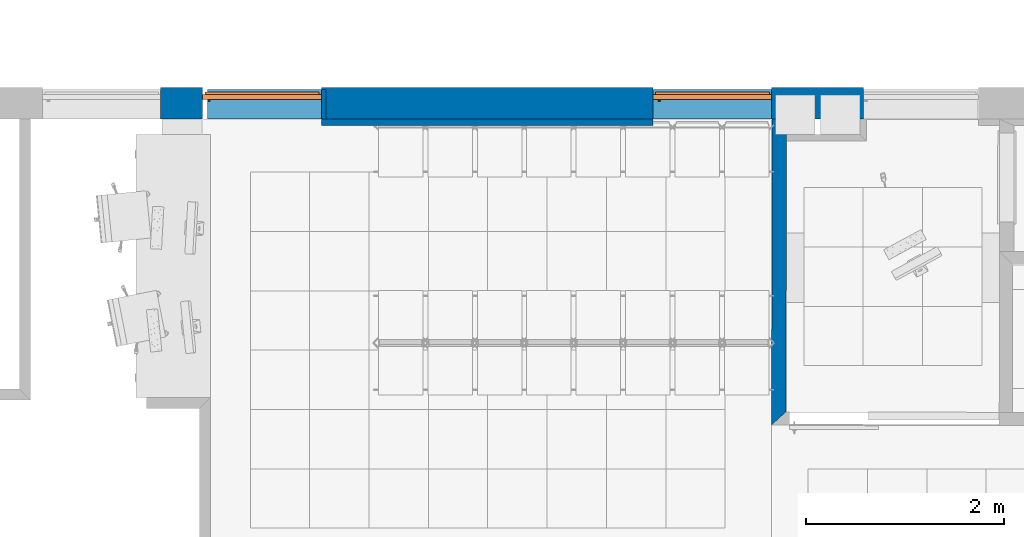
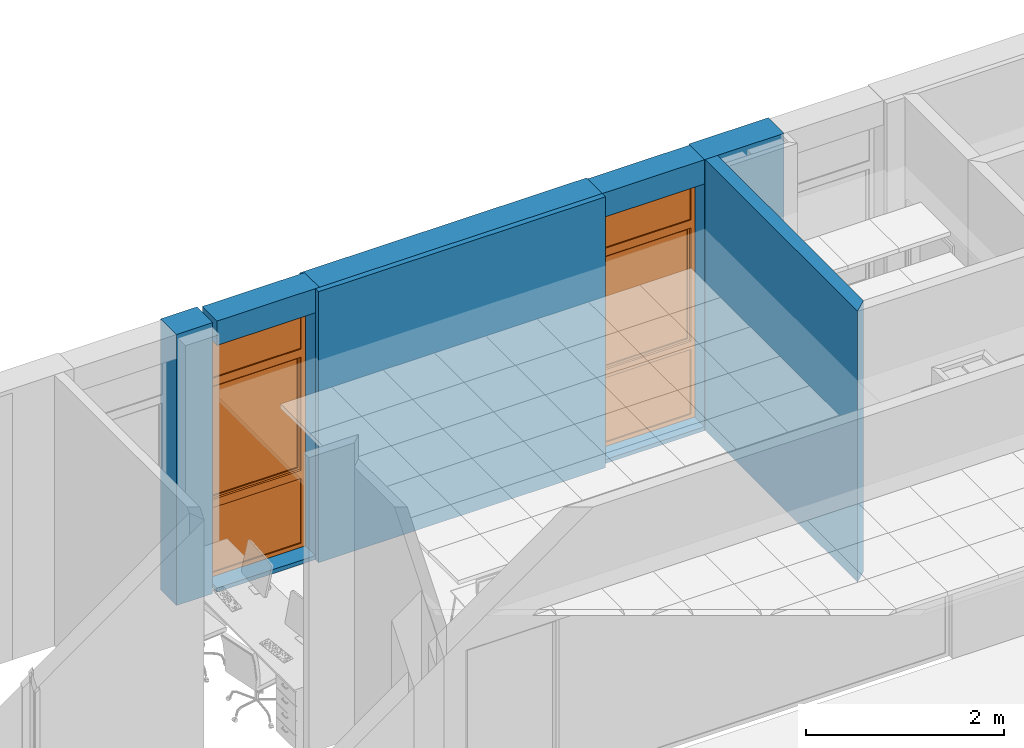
# One storey, part 26 of 68: 7 walls, 2 proxies, 2 openings.
"""IFC2X3 building model written with IfcOpenShell, lengths in millimetres."""

from ifc_helpers import new_model, entity, si_unit, converted_unit, derived_unit, money_unit, direction, frame, origin_with_axes, origin_2d_with_axis, place, context, subcontext, project, spatial, polyline, rectangle, outline, extrude, open_shell, faceted_brep, surface_model, source, transform, mapped, material, layer, layer_set, layer_usage, type_object, element, fill, save


model = new_model("IFC2X3")

# Units and contexts
model_context = context("Model", 3, precision=0.01, world=origin_with_axes(), true_north=direction((0.0, 1.0)))
body_context = subcontext(model_context, "Body", "Model", "MODEL_VIEW")
ifc_project = project(units=[si_unit("LENGTHUNIT", "METRE", prefix="MILLI"), si_unit("AREAUNIT", "SQUARE_METRE"), si_unit("VOLUMEUNIT", "CUBIC_METRE"), converted_unit("PLANEANGLEUNIT", "DEGREE", entity("IfcPlaneAngleMeasure", 0.0174532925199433), si_unit("PLANEANGLEUNIT", "RADIAN"), dimensions=[0, 0, 0, 0, 0, 0, 0]), money_unit("USD"), converted_unit("TIMEUNIT", "Year", entity("IfcTimeMeasure", 31557600.0), si_unit("TIMEUNIT", "SECOND"), dimensions=[0, 0, 1, 0, 0, 0, 0]), si_unit("MASSUNIT", "GRAM", prefix="KILO"), si_unit("THERMODYNAMICTEMPERATUREUNIT", "DEGREE_CELSIUS"), si_unit("LUMINOUSINTENSITYUNIT", "LUMEN"), si_unit("ENERGYUNIT", "JOULE", prefix="MEGA"), derived_unit("THERMALCONDUCTANCEUNIT", [(si_unit("POWERUNIT", "WATT"), 1), (si_unit("LENGTHUNIT", "METRE"), -1), (si_unit("THERMODYNAMICTEMPERATUREUNIT", "KELVIN"), -1)]), derived_unit("SPECIFICHEATCAPACITYUNIT", [(si_unit("ENERGYUNIT", "JOULE"), 1), (si_unit("MASSUNIT", "GRAM", prefix="KILO"), -1), (si_unit("THERMODYNAMICTEMPERATUREUNIT", "KELVIN"), -1)]), derived_unit("MASSDENSITYUNIT", [(si_unit("MASSUNIT", "GRAM", prefix="KILO"), 1), (si_unit("VOLUMEUNIT", "CUBIC_METRE"), -1)])], contexts=[model_context])

# Site, building, storey
site_placement = place(None, origin_with_axes())
site = spatial("IfcSite", under=ifc_project, at=site_placement, Name="Sitio", CompositionType="ELEMENT")
building_placement = place(site_placement, origin_with_axes())
building = spatial("IfcBuilding", under=site, at=building_placement, Name="Construcción", CompositionType="ELEMENT")
storey_placement = place(building_placement, origin_with_axes())
storey = spatial("IfcBuildingStorey", under=building, at=storey_placement, Name="PLANTA 1ª", CompositionType="ELEMENT", Elevation=0.0)

# Wall, opening, proxy
ifc_material_1 = material(Name="ARQ_AM246_Arrebossat_De_Guix")
ifc_layer_1 = layer(ifc_material_1, 20.0, ventilated="UNKNOWN")
ifc_material_2 = material(Name="ARQ_CE217_Gero")
ifc_layer_2 = layer(ifc_material_2, 110.0, ventilated="UNKNOWN")
ifc_material_3 = material(Name="ARQ_AI031_Aillament_Poliestireno expandido EPS")
ifc_layer_3 = layer(ifc_material_3, 100.0, ventilated="UNKNOWN")
ifc_material_4 = material(Name="ARQ_CE218_Ceramic")
ifc_layer_4 = layer(ifc_material_4, 50.0, ventilated="UNKNOWN")
ifc_layer_5 = layer(ifc_material_1, 20.0, ventilated="UNKNOWN")
ifc_layer_set_1 = layer_set([ifc_layer_1, ifc_layer_2, ifc_layer_3, ifc_layer_4, ifc_layer_5], Name="façana pati CR3 (ampit)")
ifc_layer_usage_1 = layer_usage(ifc_layer_set_1, "AXIS2", "POSITIVE", -300.0000000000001)
wall_type_1 = type_object("IfcWallType", Name="façana pati CR3 (ampit) 300", PredefinedType="NOTDEFINED")
wall_1_placement = place(storey_placement, frame((-13091.10900490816, -12338.97582371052, 0.0), z_axis=(0.0, 0.0, 1.0), x_axis=(-1.0, 0.0, 0.0)))
wall_1 = element("IfcWallStandardCase", 1, at=wall_1_placement, inside=storey, type_object=wall_type_1, material=ifc_layer_usage_1, Name="MS-201", context=body_context, shape_type="SweptSolid", body=[
    extrude(outline(polyline([(0.0, -300.0000000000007), (1194.999999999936, -300.0000000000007), (1194.999999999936, 0.0), (0.0, 0.0), (0.0, -300.0000000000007)])), origin_with_axes(), (0.0, 0.0, 1.0), 3350.0),
])
opening_1_placement = place(wall_1_placement, frame((594.9999999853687, 0.0, 50.0), z_axis=(0.0, 0.0, 1.0), x_axis=(1.0, 0.0, 0.0)))
opening_1 = element("IfcOpeningElement", 2, at=opening_1_placement, cuts=wall_1, Name="F01", context=body_context, shape_type="SweptSolid", body=[
    extrude(rectangle(XDim=1200.000000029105, YDim=3000.0, at=origin_2d_with_axis()), frame((0.0, -250.0, 1500.0), z_axis=(0.0, -1.0, 0.0), x_axis=(-1.0, 0.0, 0.0)), (0.0, 0.0, -1.0), 550.0),
    extrude(rectangle(XDim=1200.000000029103, YDim=3000.0, at=origin_2d_with_axis()), frame((0.0, -250.0, 1500.0), z_axis=(0.0, 1.0, 0.0), x_axis=(-1.0, 0.0, 0.0)), (0.0, 0.0, -1.0), 350.0000000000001),
])
building_element_proxy_type = type_object("IfcBuildingElementProxyType", Name="Ventana Vertical Multi-Faja 27", PredefinedType="NOTDEFINED")
shared_shape = source(origin_with_axes(), body_context, "Body", "SurfaceModel", [
    faceted_brep([(-575.0000000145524, 0.0, 925.0), (-550.0000000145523, 0.0, 925.0), (-550.0000000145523, 0.0, 850.0), (-550.0000000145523, 0.0, 50.00000000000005), (-600.0000000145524, 0.0, 50.00000000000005), (-600.0000000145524, 0.0, 2950.0), (-550.0000000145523, 0.0, 2950.0), (-550.0000000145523, 0.0, 2450.0), (-550.0000000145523, 0.0, 2375.0), (-575.0000000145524, 0.0, 2375.0), (-575.0000000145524, -25.00000000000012, 925.0), (-550.0000000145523, -25.00000000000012, 925.0), (-550.0000000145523, -25.00000000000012, 950.0000000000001), (-550.0000000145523, -50.00000000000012, 950.0000000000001), (-550.0000000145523, -50.00000000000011, 850.0), (-550.0000000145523, -50.00000000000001, 50.00000000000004), (-600.0000000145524, -50.00000000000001, 50.00000000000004), (-600.0000000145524, -50.00000000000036, 2950.0), (-550.0000000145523, -50.00000000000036, 2950.0), (-550.0000000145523, -50.0000000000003, 2450.0), (-550.0000000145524, -25.00000000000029, 2375.0), (-550.0000000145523, -50.00000000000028, 2350.0), (-550.0000000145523, -25.00000000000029, 2350.0), (-575.0000000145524, -25.00000000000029, 2375.0)], [[[0, 1, 2, 3, 4, 5, 6, 7, 8, 9]], [[0, 10, 11, 1]], [[11, 12, 13, 14, 2, 1]], [[3, 2, 14, 15]], [[4, 3, 15, 16]], [[5, 4, 16, 17]], [[6, 5, 17, 18]], [[7, 6, 18, 19]], [[20, 8, 7, 19, 21, 22]], [[20, 23, 9, 8]], [[9, 23, 10, 0]], [[22, 12, 11, 10, 23, 20]], [[22, 21, 13, 12]], [[17, 16, 15, 14, 13, 21, 19, 18]]]),
    faceted_brep([(575.0000000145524, 0.0, 925.0), (575.0000000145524, 0.0, 2375.0), (550.0000000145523, 0.0, 2375.0), (550.0000000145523, 0.0, 2450.0), (550.0000000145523, 0.0, 2950.0), (600.0000000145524, 0.0, 2950.0), (600.0000000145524, 0.0, 50.00000000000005), (550.0000000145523, 0.0, 50.00000000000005), (550.0000000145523, 0.0, 850.0), (550.0000000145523, 0.0, 925.0), (575.0000000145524, -25.00000000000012, 925.0), (575.0000000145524, -25.00000000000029, 2375.0), (550.0000000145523, -25.00000000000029, 2375.0), (550.0000000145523, -25.00000000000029, 2350.0), (550.0000000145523, -50.00000000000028, 2350.0), (550.0000000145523, -50.0000000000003, 2450.0), (550.0000000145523, -50.00000000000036, 2950.0), (600.0000000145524, -50.00000000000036, 2950.0), (600.0000000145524, -50.00000000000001, 50.00000000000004), (550.0000000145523, -50.00000000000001, 50.00000000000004), (550.0000000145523, -50.00000000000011, 850.0), (550.0000000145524, -25.00000000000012, 925.0), (550.0000000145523, -50.00000000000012, 950.0000000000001), (550.0000000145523, -25.00000000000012, 950.0000000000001)], [[[0, 1, 2, 3, 4, 5, 6, 7, 8, 9]], [[0, 10, 11, 1]], [[1, 11, 12, 2]], [[12, 13, 14, 15, 3, 2]], [[4, 3, 15, 16]], [[5, 4, 16, 17]], [[6, 5, 17, 18]], [[7, 6, 18, 19]], [[8, 7, 19, 20]], [[21, 9, 8, 20, 22, 23]], [[9, 21, 10, 0]], [[12, 11, 10, 21, 23, 13]], [[23, 22, 14, 13]], [[14, 22, 20, 19, 18, 17, 16, 15]]]),
    faceted_brep([(-550.0000000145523, -25.00000000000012, 950.0000000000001), (-550.0000000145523, -50.00000000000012, 950.0000000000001), (550.0000000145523, -50.00000000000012, 950.0000000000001), (550.0000000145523, -25.00000000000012, 950.0000000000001), (-550.0000000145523, -25.00000000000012, 925.0), (-550.0000000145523, 0.0, 925.0), (-550.0000000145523, 0.0, 850.0), (-550.0000000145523, -50.00000000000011, 850.0), (550.0000000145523, -50.00000000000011, 850.0), (550.0000000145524, -25.00000000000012, 925.0), (550.0000000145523, 0.0, 850.0), (550.0000000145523, 0.0, 925.0)], [[[0, 1, 2, 3]], [[4, 5, 6, 7, 1, 0]], [[1, 7, 8, 2]], [[9, 3, 2, 8, 10, 11]], [[9, 4, 0, 3]], [[5, 4, 9, 11]], [[11, 10, 6, 5]], [[6, 10, 8, 7]]]),
    faceted_brep([(-550.0000000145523, 0.0, 2375.0), (-550.0000000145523, 0.0, 2450.0), (550.0000000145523, 0.0, 2450.0), (550.0000000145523, 0.0, 2375.0), (-550.0000000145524, -25.00000000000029, 2375.0), (-550.0000000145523, -25.00000000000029, 2350.0), (-550.0000000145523, -50.00000000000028, 2350.0), (-550.0000000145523, -50.0000000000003, 2450.0), (550.0000000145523, -50.0000000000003, 2450.0), (550.0000000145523, -25.00000000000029, 2375.0), (550.0000000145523, -50.00000000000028, 2350.0), (550.0000000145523, -25.00000000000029, 2350.0)], [[[0, 1, 2, 3]], [[4, 5, 6, 7, 1, 0]], [[2, 1, 7, 8]], [[9, 3, 2, 8, 10, 11]], [[9, 4, 0, 3]], [[11, 5, 4, 9]], [[11, 10, 6, 5]], [[7, 6, 10, 8]]]),
    faceted_brep([(550.0000000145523, -50.00000000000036, 2950.0), (550.0000000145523, 0.0, 2950.0), (600.0000000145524, 0.0, 2950.0), (600.0000000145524, -50.00000000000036, 2950.0), (-550.0000000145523, -50.00000000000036, 2950.0), (-550.0000000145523, 0.0, 2950.0), (-600.0000000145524, 0.0, 2950.0), (-600.0000000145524, 0.0, 3000.0), (600.0000000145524, 0.0, 3000.0), (600.0000000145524, -50.00000000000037, 3000.0), (-600.0000000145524, -50.00000000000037, 3000.0), (-600.0000000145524, -50.00000000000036, 2950.0)], [[[0, 1, 2, 3]], [[4, 5, 1, 0]], [[1, 5, 6, 7, 8, 2]], [[3, 2, 8, 9]], [[0, 3, 9, 10, 11, 4]], [[11, 6, 5, 4]], [[10, 7, 6, 11]], [[9, 8, 7, 10]]]),
    faceted_brep([(-550.0000000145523, -50.00000000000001, 50.0), (-550.0000000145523, 0.0, 50.00000000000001), (-600.0000000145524, 0.0, 50.00000000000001), (-600.0000000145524, -50.00000000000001, 50.0), (550.0000000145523, -50.00000000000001, 50.0), (550.0000000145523, 0.0, 50.00000000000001), (600.0000000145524, 0.0, 50.00000000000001), (600.0000000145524, 0.0, 0.0), (-600.0000000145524, 0.0, 0.0), (-600.0000000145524, -50.0, 0.0), (600.0000000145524, -50.0, 0.0), (600.0000000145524, -50.00000000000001, 50.0)], [[[0, 1, 2, 3]], [[4, 5, 1, 0]], [[1, 5, 6, 7, 8, 2]], [[3, 2, 8, 9]], [[0, 3, 9, 10, 11, 4]], [[11, 6, 5, 4]], [[10, 7, 6, 11]], [[9, 8, 7, 10]]]),
    surface_model("IfcShellBasedSurfaceModel", [(-550.0000000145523, -35.0, 49.99999999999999), (550.0000000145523, -35.0, 49.99999999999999), (550.0000000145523, -35.0000000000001, 850.0), (-550.0000000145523, -35.0000000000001, 850.0)], [open_shell([[[0, 1, 2, 3]]])]),
    surface_model("IfcShellBasedSurfaceModel", [(-550.0000000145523, -15.0, 49.99999999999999), (-550.0000000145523, -15.0000000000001, 850.0), (550.0000000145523, -15.0000000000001, 850.0), (550.0000000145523, -15.0, 49.99999999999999)], [open_shell([[[0, 1, 2, 3]]])]),
    faceted_brep([(-521.5000000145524, -25.00000000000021, 1677.0), (-522.839745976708, -25.00000000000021, 1682.0), (-522.839745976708, -37.00000000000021, 1682.0), (-521.5000000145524, -37.00000000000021, 1677.0), (-521.5000000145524, -25.0000000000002, 1623.0), (-522.839745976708, -25.0000000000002, 1618.0), (-526.5000000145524, -25.0000000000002, 1614.339745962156), (-531.5000000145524, -25.0000000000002, 1613.0), (-543.5000000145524, -25.0000000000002, 1613.0), (-548.5000000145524, -25.0000000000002, 1614.339745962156), (-552.1602540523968, -25.0000000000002, 1618.0), (-553.5000000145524, -25.0000000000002, 1623.0), (-553.5000000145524, -25.00000000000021, 1677.0), (-552.1602540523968, -25.00000000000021, 1682.0), (-548.5000000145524, -25.00000000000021, 1685.660254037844), (-543.5000000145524, -25.00000000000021, 1687.0), (-531.5000000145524, -25.00000000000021, 1687.0), (-526.5000000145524, -25.00000000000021, 1685.660254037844), (-526.5000000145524, -37.00000000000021, 1685.660254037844), (-531.5000000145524, -37.00000000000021, 1687.0), (-543.5000000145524, -37.00000000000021, 1687.0), (-548.5000000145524, -37.00000000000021, 1685.660254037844), (-552.1602540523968, -37.00000000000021, 1682.0), (-553.5000000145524, -37.00000000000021, 1677.0), (-553.5000000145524, -37.0000000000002, 1623.0), (-552.1602540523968, -37.0000000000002, 1618.0), (-548.5000000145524, -37.0000000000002, 1614.339745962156), (-543.5000000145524, -37.0000000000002, 1613.0), (-531.5000000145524, -37.0000000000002, 1613.0), (-526.5000000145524, -37.0000000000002, 1614.339745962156), (-522.839745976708, -37.0000000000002, 1618.0), (-521.5000000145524, -37.0000000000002, 1623.0)], [[[0, 1, 2, 3]], [[0, 4, 5, 6, 7, 8, 9, 10, 11, 12, 13, 14, 15, 16, 17, 1]], [[1, 17, 18, 2]], [[3, 2, 18, 19, 20, 21, 22, 23, 24, 25, 26, 27, 28, 29, 30, 31]], [[4, 0, 3, 31]], [[5, 4, 31, 30]], [[6, 5, 30, 29]], [[7, 6, 29, 28]], [[8, 7, 28, 27]], [[9, 8, 27, 26]], [[10, 9, 26, 25]], [[11, 10, 25, 24]], [[12, 11, 24, 23]], [[13, 12, 23, 22]], [[14, 13, 22, 21]], [[15, 14, 21, 20]], [[16, 15, 20, 19]], [[17, 16, 19, 18]]]),
    faceted_brep([(-537.5000000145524, -37.0000000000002, 1663.5), (-544.2500000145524, -37.0000000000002, 1661.69134295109), (-544.2500000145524, -61.00000000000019, 1661.69134295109), (-537.5000000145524, -61.00000000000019, 1663.5), (-530.7500000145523, -37.0000000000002, 1661.69134295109), (-525.8086570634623, -37.0000000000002, 1656.75), (-524.0000000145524, -37.0000000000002, 1650.0), (-525.8086570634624, -37.0000000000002, 1643.25), (-530.7500000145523, -37.0000000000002, 1638.30865704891), (-537.5000000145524, -37.0000000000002, 1636.5), (-544.2500000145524, -37.0000000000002, 1638.30865704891), (-549.1913429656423, -37.0000000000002, 1643.25), (-551.0000000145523, -37.0000000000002, 1650.0), (-549.1913429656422, -37.0000000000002, 1656.75), (-549.1913429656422, -61.00000000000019, 1656.75), (-551.0000000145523, -61.00000000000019, 1650.0), (-549.1913429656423, -61.00000000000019, 1643.25), (-544.2500000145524, -61.00000000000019, 1638.30865704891), (-537.5000000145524, -61.00000000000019, 1636.5), (-530.7500000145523, -61.00000000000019, 1638.30865704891), (-525.8086570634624, -61.00000000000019, 1643.25), (-524.0000000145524, -61.00000000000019, 1650.0), (-525.8086570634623, -61.00000000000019, 1656.75), (-530.7500000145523, -61.00000000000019, 1661.69134295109)], [[[0, 1, 2, 3]], [[0, 4, 5, 6, 7, 8, 9, 10, 11, 12, 13, 1]], [[1, 13, 14, 2]], [[3, 2, 14, 15, 16, 17, 18, 19, 20, 21, 22, 23]], [[4, 0, 3, 23]], [[5, 4, 23, 22]], [[6, 5, 22, 21]], [[7, 6, 21, 20]], [[8, 7, 20, 19]], [[9, 8, 19, 18]], [[10, 9, 18, 17]], [[11, 10, 17, 16]], [[12, 11, 16, 15]], [[13, 12, 15, 14]]]),
    faceted_brep([(-526.0000000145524, -61.00000000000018, 1543.0), (-537.5000000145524, -61.00000000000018, 1540.0), (-549.0000000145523, -61.00000000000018, 1543.0), (-551.0000000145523, -61.00000000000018, 1546.0), (-551.0000000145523, -61.00000000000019, 1650.0), (-549.1913429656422, -61.00000000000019, 1656.75), (-544.2500000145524, -61.00000000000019, 1661.69134295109), (-537.5000000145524, -61.00000000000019, 1663.5), (-530.7500000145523, -61.00000000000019, 1661.69134295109), (-525.8086570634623, -61.00000000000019, 1656.75), (-524.0000000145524, -61.00000000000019, 1650.0), (-524.0000000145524, -61.00000000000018, 1546.0), (-525.9999999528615, -69.00000000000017, 1543.000000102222), (-537.4999999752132, -69.00000000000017, 1539.999999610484), (-548.9999999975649, -69.00000000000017, 1543.000000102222), (-551.0000003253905, -69.00000000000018, 1545.999999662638), (-551.0000003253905, -69.0000000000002, 1649.99999994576), (-549.1913430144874, -69.0000000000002, 1656.749999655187), (-544.2499996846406, -69.0000000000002, 1661.691342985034), (-537.4999999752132, -69.0000000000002, 1663.500000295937), (-530.7500002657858, -69.0000000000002, 1661.691342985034), (-525.808656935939, -69.0000000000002, 1656.749999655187), (-523.9999996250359, -69.0000000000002, 1649.99999994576), (-523.9999996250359, -69.00000000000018, 1545.999999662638), (-527.8625374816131, -71.99999956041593, 1545.61451963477), (-537.4999999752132, -71.99999956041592, 1543.100398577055), (-547.1374624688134, -71.99999956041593, 1545.61451963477), (-548.0000007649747, -71.99999956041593, 1546.908326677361), (-548.0000007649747, -71.99999956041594, 1649.605042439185), (-546.5016170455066, -71.99999956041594, 1655.197085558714), (-542.6970855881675, -71.99999956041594, 1659.001617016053), (-537.4999999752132, -71.99999956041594, 1660.394172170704), (-532.302914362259, -71.99999956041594, 1659.001617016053), (-528.4983829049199, -71.99999956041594, 1655.197085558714), (-526.9999991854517, -71.99999956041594, 1649.605042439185), (-526.9999991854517, -71.99999956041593, 1546.908326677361)], [[[0, 1, 2, 3, 4, 5, 6, 7, 8, 9, 10, 11]], [[1, 0, 12, 13]], [[2, 1, 13, 14]], [[3, 2, 14, 15]], [[4, 3, 15, 16]], [[5, 4, 16, 17]], [[6, 5, 17, 18]], [[7, 6, 18, 19]], [[8, 7, 19, 20]], [[9, 8, 20, 21]], [[10, 9, 21, 22]], [[11, 10, 22, 23]], [[0, 11, 23, 12]], [[13, 12, 24, 25]], [[14, 13, 25, 26]], [[15, 14, 26, 27]], [[16, 15, 27, 28]], [[17, 16, 28, 29]], [[18, 17, 29, 30]], [[19, 18, 30, 31]], [[20, 19, 31, 32]], [[21, 20, 32, 33]], [[22, 21, 33, 34]], [[23, 22, 34, 35]], [[12, 23, 35, 24]], [[26, 25, 24, 35, 34, 33, 32, 31, 30, 29, 28, 27]]]),
    faceted_brep([(-525.0000000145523, -25.00000000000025, 2325.0), (-525.0000000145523, 24.99999999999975, 2325.0), (-575.0000000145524, 24.99999999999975, 2325.0), (-575.0000000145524, -25.00000000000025, 2325.0), (-525.0000000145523, -25.00000000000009, 975.0000000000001), (-525.0000000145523, 24.99999999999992, 975.0000000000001), (-575.0000000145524, 24.99999999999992, 975.0000000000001), (-575.0000000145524, -25.00000000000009, 975.0000000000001)], [[[0, 1, 2, 3]], [[4, 5, 1, 0]], [[1, 5, 6, 2]], [[3, 2, 6, 7]], [[0, 3, 7, 4]], [[7, 6, 5, 4]]]),
    faceted_brep([(525.0000000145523, -25.00000000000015, 975.0000000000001), (525.0000000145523, 24.99999999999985, 975.0000000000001), (575.0000000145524, 24.99999999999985, 975.0000000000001), (575.0000000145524, -25.00000000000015, 975.0000000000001), (525.0000000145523, -25.00000000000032, 2325.0), (525.0000000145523, 24.99999999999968, 2325.0), (575.0000000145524, 24.99999999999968, 2325.0), (575.0000000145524, -25.00000000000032, 2325.0)], [[[0, 1, 2, 3]], [[4, 5, 1, 0]], [[1, 5, 6, 2]], [[3, 2, 6, 7]], [[0, 3, 7, 4]], [[7, 6, 5, 4]]]),
    faceted_brep([(575.0000000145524, -25.00000000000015, 925.0), (575.0000000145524, 24.99999999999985, 925.0), (575.0000000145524, 24.99999999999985, 975.0000000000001), (575.0000000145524, -25.00000000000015, 975.0000000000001), (-575.0000000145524, -25.00000000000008, 925.0), (-575.0000000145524, 24.99999999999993, 925.0), (-575.0000000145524, 24.99999999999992, 975.0000000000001), (-525.0000000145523, 24.99999999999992, 975.0000000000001), (525.0000000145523, 24.99999999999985, 975.0000000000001), (525.0000000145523, -25.00000000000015, 975.0000000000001), (-525.0000000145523, -25.00000000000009, 975.0000000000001), (-575.0000000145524, -25.00000000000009, 975.0000000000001)], [[[0, 1, 2, 3]], [[4, 5, 1, 0]], [[1, 5, 6, 7, 8, 2]], [[3, 2, 8, 9]], [[0, 3, 9, 10, 11, 4]], [[11, 6, 5, 4]], [[10, 7, 6, 11]], [[9, 8, 7, 10]]]),
    faceted_brep([(-575.0000000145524, -25.00000000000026, 2375.0), (-575.0000000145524, 24.99999999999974, 2375.0), (-575.0000000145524, 24.99999999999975, 2325.0), (-575.0000000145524, -25.00000000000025, 2325.0), (575.0000000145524, -25.00000000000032, 2375.0), (575.0000000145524, 24.99999999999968, 2375.0), (575.0000000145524, 24.99999999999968, 2325.0), (525.0000000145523, 24.99999999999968, 2325.0), (-525.0000000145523, 24.99999999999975, 2325.0), (-525.0000000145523, -25.00000000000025, 2325.0), (525.0000000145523, -25.00000000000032, 2325.0), (575.0000000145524, -25.00000000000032, 2325.0)], [[[0, 1, 2, 3]], [[4, 5, 1, 0]], [[1, 5, 6, 7, 8, 2]], [[3, 2, 8, 9]], [[0, 3, 9, 10, 11, 4]], [[11, 6, 5, 4]], [[10, 7, 6, 11]], [[9, 8, 7, 10]]]),
    surface_model("IfcShellBasedSurfaceModel", [(-525.0000000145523, -10.00000000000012, 975.0000000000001), (525.0000000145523, -10.00000000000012, 975.0000000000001), (525.0000000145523, -10.00000000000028, 2325.0), (-525.0000000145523, -10.00000000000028, 2325.0)], [open_shell([[[0, 1, 2, 3]]])]),
    surface_model("IfcShellBasedSurfaceModel", [(-525.0000000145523, 9.999999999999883, 975.0000000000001), (-525.0000000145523, 9.99999999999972, 2325.0), (525.0000000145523, 9.99999999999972, 2325.0), (525.0000000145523, 9.999999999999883, 975.0000000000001)], [open_shell([[[0, 1, 2, 3]]])]),
    surface_model("IfcShellBasedSurfaceModel", [(-550.0000000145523, -35.0000000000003, 2450.0), (550.0000000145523, -35.0000000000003, 2450.0), (550.0000000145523, -35.00000000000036, 2950.0), (-550.0000000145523, -35.00000000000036, 2950.0)], [open_shell([[[0, 1, 2, 3]]])]),
    surface_model("IfcShellBasedSurfaceModel", [(-550.0000000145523, -15.0000000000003, 2450.0), (-550.0000000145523, -15.00000000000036, 2950.0), (550.0000000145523, -15.00000000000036, 2950.0), (550.0000000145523, -15.0000000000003, 2450.0)], [open_shell([[[0, 1, 2, 3]]])]),
])
proxy_1_placement = place(opening_1_placement, frame((600.0000000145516, 0.0, 0.0), z_axis=(0.0, 0.0, 1.0), x_axis=(-1.0, 0.0, 0.0)))
proxy_1 = element("IfcBuildingElementProxy", 3, at=proxy_1_placement, inside=storey, type_object=building_element_proxy_type, Name="F01", context=body_context, shape_type="MappedRepresentation", body=[
    mapped(shared_shape, transform((600.0000000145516, 250.0, 0.0))),
])
fill(opening_1, proxy_1)

ifc_layer_usage_2 = layer_usage(ifc_layer_set_1, "AXIS2", "POSITIVE", -300.0000000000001)
wall_2_placement = place(storey_placement, frame((-17595.38048777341, -12338.97582371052, 0.0), z_axis=(0.0, 0.0, 1.0), x_axis=(-1.0, 0.0, 0.0)))
wall_2 = element("IfcWallStandardCase", 4, at=wall_2_placement, inside=storey, type_object=wall_type_1, material=ifc_layer_usage_2, Name="MS-201", context=body_context, shape_type="SweptSolid", body=[
    extrude(outline(polyline([(0.0, -300.0000000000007), (1194.999999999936, -300.0000000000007), (1194.999999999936, 0.0), (0.0, 0.0), (0.0, -300.0000000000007)])), origin_with_axes(), (0.0, 0.0, 1.0), 3350.0),
])
opening_2_placement = place(wall_2_placement, frame((645.728517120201, 0.0, 50.0), z_axis=(0.0, 0.0, 1.0), x_axis=(1.0, 0.0, 0.0)))
opening_2 = element("IfcOpeningElement", 5, at=opening_2_placement, cuts=wall_2, Name="F01", context=body_context, shape_type="SweptSolid", body=[
    extrude(rectangle(XDim=1200.000000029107, YDim=3000.0, at=origin_2d_with_axis()), frame((0.0, -250.0, 1500.0), z_axis=(0.0, -1.0, 0.0), x_axis=(-1.0, 0.0, 0.0)), (0.0, 0.0, -1.0), 550.0),
    extrude(rectangle(XDim=1200.000000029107, YDim=3000.0, at=origin_2d_with_axis()), frame((0.0, -250.0, 1500.0), z_axis=(0.0, 1.0, 0.0), x_axis=(-1.0, 0.0, 0.0)), (0.0, 0.0, -1.0), 350.0000000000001),
])
proxy_2_placement = place(opening_2_placement, frame((600.0000000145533, 0.0, 0.0), z_axis=(0.0, 0.0, 1.0), x_axis=(-1.0, 0.0, 0.0)))
proxy_2 = element("IfcBuildingElementProxy", 6, at=proxy_2_placement, inside=storey, type_object=building_element_proxy_type, Name="F01", context=body_context, shape_type="MappedRepresentation", body=[
    mapped(shared_shape, transform((600.0000000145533, 250.0, 0.0))),
])
fill(opening_2, proxy_2)

# Walls
ifc_layer_6 = layer(ifc_material_2, 150.0, ventilated="UNKNOWN")
ifc_layer_7 = layer(ifc_material_3, 100.0, ventilated="UNKNOWN")
ifc_layer_8 = layer(ifc_material_4, 50.0, ventilated="UNKNOWN")
ifc_layer_9 = layer(ifc_material_1, 20.0, ventilated="UNKNOWN")
ifc_layer_set_2 = layer_set([ifc_layer_6, ifc_layer_7, ifc_layer_8, ifc_layer_9], Name="façana pati CR3")
ifc_layer_usage_3 = layer_usage(ifc_layer_set_2, "AXIS2", "POSITIVE", -320.0)
wall_type_2 = type_object("IfcWallType", Name="façana pati CR3 320", PredefinedType="NOTDEFINED")
wall_3_placement = place(storey_placement, frame((-18841.10900490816, -12338.97582371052, 0.0), z_axis=(0.0, 0.0, 1.0), x_axis=(-1.0, 0.0, 0.0)))
element("IfcWallStandardCase", 7, at=wall_3_placement, inside=storey, type_object=wall_type_2, material=ifc_layer_usage_3, Name="MS-201", context=body_context, shape_type="SweptSolid", body=[
    extrude(outline(polyline([(0.0, -320.0000000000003), (424.9999999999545, -320.0000000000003), (424.9999999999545, 0.0), (0.0, 0.0), (0.0, -320.0000000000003)])), origin_with_axes(), (0.0, 0.0, 1.0), 3350.0),
])
ifc_layer_usage_4 = layer_usage(ifc_layer_set_2, "AXIS2", "POSITIVE", -320.0)
wall_4_placement = place(storey_placement, frame((-14286.1090049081, -12338.97582371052, 0.0), z_axis=(0.0, 0.0, 1.0), x_axis=(-1.0, 0.0, 0.0)))
element("IfcWallStandardCase", 8, at=wall_4_placement, inside=storey, type_object=wall_type_2, material=ifc_layer_usage_4, Name="MS-201", context=body_context, shape_type="SweptSolid", body=[
    extrude(outline(polyline([(0.0, -320.0000000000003), (3355.000000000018, -320.0000000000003), (3355.000000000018, 0.0), (0.0, 0.0), (0.0, -320.0000000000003)])), origin_with_axes(), (0.0, 0.0, 1.0), 3350.0),
])
ifc_layer_usage_5 = layer_usage(ifc_layer_set_2, "AXIS2", "POSITIVE", -320.0)
wall_5_placement = place(storey_placement, frame((-12161.1090049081, -12338.97582371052, 0.0), z_axis=(0.0, 0.0, 1.0), x_axis=(-1.0, 0.0, 0.0)))
element("IfcWallStandardCase", 9, at=wall_5_placement, inside=storey, type_object=wall_type_2, material=ifc_layer_usage_5, Name="MS-201", context=body_context, shape_type="SweptSolid", body=[
    extrude(outline(polyline([(0.0, -320.0000000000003), (930.0000000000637, -320.0000000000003), (930.0000000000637, 0.0), (0.0, 0.0), (0.0, -320.0000000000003)])), origin_with_axes(), (0.0, 0.0, 1.0), 3350.0),
])
ifc_material_5 = material(Name="ARQ_FU093_Panellat_HPL")
ifc_layer_10 = layer(ifc_material_5, 6.0, ventilated="UNKNOWN")
ifc_material_6 = material(Name="ARQ_EN271_Camara_Aire")
ifc_layer_11 = layer(ifc_material_6, 6.0, ventilated="UNKNOWN")
ifc_material_7 = material(Name="Panel de Yeso Laminado")
ifc_layer_12 = layer(ifc_material_7, 13.0, ventilated="UNKNOWN")
ifc_material_8 = material(Name="ARQ_AI033_Aillament_Llana_De_Roca")
ifc_layer_13 = layer(ifc_material_8, 40.0, ventilated="UNKNOWN")
ifc_layer_set_3 = layer_set([ifc_layer_10, ifc_layer_11, ifc_layer_12, ifc_layer_13], Name="Pladur Tras 40 / 1N +HPL")
ifc_layer_usage_6 = layer_usage(ifc_layer_set_3, "AXIS2", "POSITIVE", -65.0)
wall_type_3 = type_object("IfcWallType", Name="Pladur Tras 40 / 1N +HPL 65", PredefinedType="NOTDEFINED")
wall_6_placement = place(storey_placement, frame((-17641.10900490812, -12338.97582371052, 0.0), z_axis=(0.0, 0.0, 1.0), x_axis=(1.0, 0.0, 0.0)))
element("IfcWallStandardCase", 10, at=wall_6_placement, inside=storey, type_object=wall_type_3, material=ifc_layer_usage_6, Name="MS-247", context=body_context, shape_type="SweptSolid", body=[
    extrude(outline(polyline([(0.0, -64.9999999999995), (3355.000000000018, -64.9999999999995), (3355.000000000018, 0.0), (0.0, 0.0), (0.0, -64.9999999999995)])), origin_with_axes(), (0.0, 0.0, 1.0), 3350.0),
])
ifc_layer_14 = layer(ifc_material_5, 6.0, ventilated="UNKNOWN")
ifc_layer_15 = layer(ifc_material_6, 6.0, ventilated="UNKNOWN")
ifc_layer_16 = layer(ifc_material_7, 13.0, ventilated="UNKNOWN")
ifc_layer_17 = layer(ifc_material_7, 13.0, ventilated="UNKNOWN")
ifc_layer_18 = layer(ifc_material_8, 70.0, ventilated="UNKNOWN")
ifc_layer_19 = layer(ifc_material_7, 13.0, ventilated="UNKNOWN")
ifc_layer_20 = layer(ifc_material_7, 13.0, ventilated="UNKNOWN")
ifc_layer_21 = layer(ifc_material_6, 6.0, ventilated="UNKNOWN")
ifc_layer_22 = layer(ifc_material_5, 6.0, ventilated="UNKNOWN")
ifc_layer_set_4 = layer_set([ifc_layer_14, ifc_layer_15, ifc_layer_16, ifc_layer_17, ifc_layer_18, ifc_layer_19, ifc_layer_20, ifc_layer_21, ifc_layer_22], Name="CR Pladur 70 HPL 2 cares")
ifc_layer_usage_7 = layer_usage(ifc_layer_set_4, "AXIS2", "POSITIVE", -146.0)
wall_type_4 = type_object("IfcWallType", Name="CR Pladur 70 HPL 2 cares 146", PredefinedType="NOTDEFINED")
wall_7_placement = place(storey_placement, frame((-13089.09812104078, -15296.87339489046, 0.0), z_axis=(0.0, 0.0, 1.0), x_axis=(0.001478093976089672, 0.9999989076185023, 0.0)))
element("IfcWallStandardCase", 11, at=wall_7_placement, inside=storey, type_object=wall_type_4, material=ifc_layer_usage_7, Name="MS-205", context=body_context, shape_type="SweptSolid", body=[
    extrude(outline(polyline([(-0.1460147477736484, -146.0000000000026), (2958.116604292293, -146.0000000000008), (2957.900802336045, 0.0), (-134.0000670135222, 0.0), (-0.1460147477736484, -146.0000000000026)])), origin_with_axes(), (0.0, 0.0, 1.0), 3350.0),
])

save(model, "model.ifc")
